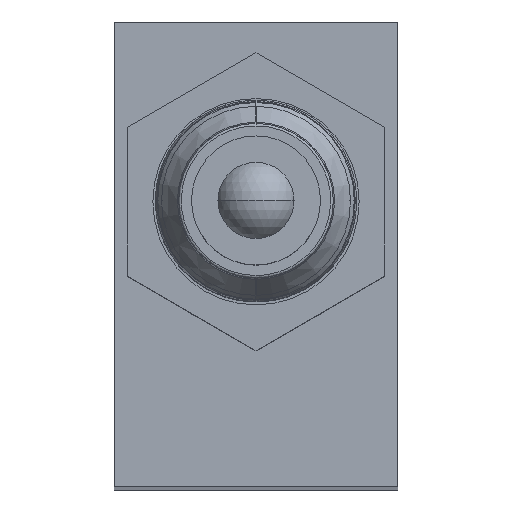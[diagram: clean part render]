
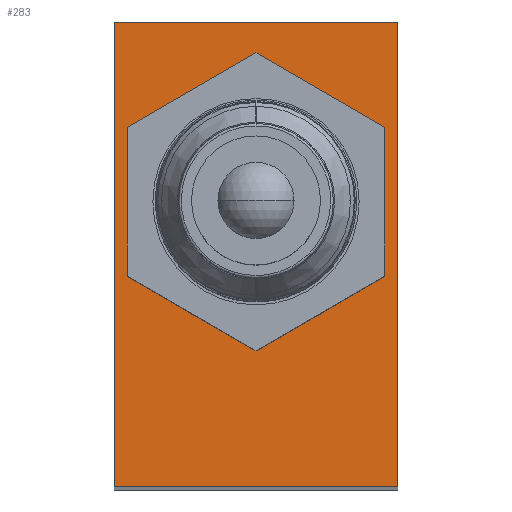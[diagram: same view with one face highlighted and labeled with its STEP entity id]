
A CAD part, top view. The second image highlights one B-rep face of the part: STEP entity #283.
In plain terms, the highlighted planar face has unit normal (0, 0, 1).
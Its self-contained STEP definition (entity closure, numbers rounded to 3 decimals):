
#283 = ADVANCED_FACE ( 'NONE', ( #1821, #1827 ), #6073, .F. ) ;
#417 = EDGE_CURVE ( 'NONE', #835, #836, #1881, .T. ) ;
#419 = EDGE_CURVE ( 'NONE', #836, #835, #1884, .T. ) ;
#426 = EDGE_CURVE ( 'NONE', #847, #846, #1895, .T. ) ;
#427 = EDGE_CURVE ( 'NONE', #848, #847, #1890, .T. ) ;
#431 = EDGE_CURVE ( 'NONE', #845, #846, #1904, .T. ) ;
#432 = EDGE_CURVE ( 'NONE', #848, #845, #1900, .T. ) ;
#639 = AXIS2_PLACEMENT_3D ( 'NONE', #2488, #2490, #2491 ) ;
#658 = AXIS2_PLACEMENT_3D ( 'NONE', #6076, #6081, #6082 ) ;
#688 = AXIS2_PLACEMENT_3D ( 'NONE', #2494, #2495, #2496 ) ;
#835 = VERTEX_POINT ( 'NONE', #2931 ) ;
#836 = VERTEX_POINT ( 'NONE', #2932 ) ;
#845 = VERTEX_POINT ( 'NONE', #2941 ) ;
#846 = VERTEX_POINT ( 'NONE', #2942 ) ;
#847 = VERTEX_POINT ( 'NONE', #2943 ) ;
#848 = VERTEX_POINT ( 'NONE', #2944 ) ;
#1821 = FACE_OUTER_BOUND ( 'NONE', #4563, .T. ) ;
#1827 = FACE_BOUND ( 'NONE', #4612, .T. ) ;
#1881 = CIRCLE ( 'NONE', #639, 5. ) ;
#1884 = CIRCLE ( 'NONE', #688, 5. ) ;
#1890 = LINE ( 'NONE', #2508, #1897 ) ;
#1895 = LINE ( 'NONE', #2511, #1896 ) ;
#1896 = VECTOR ( 'NONE', #2512, 1000. ) ;
#1897 = VECTOR ( 'NONE', #2514, 1000. ) ;
#1900 = LINE ( 'NONE', #2510, #1906 ) ;
#1904 = LINE ( 'NONE', #2521, #1905 ) ;
#1905 = VECTOR ( 'NONE', #2522, 1000. ) ;
#1906 = VECTOR ( 'NONE', #2524, 1000. ) ;
#2488 = CARTESIAN_POINT ( 'NONE',  ( 0., 0., -48.5 ) ) ;
#2490 = DIRECTION ( 'NONE',  ( 0., 0., -1. ) ) ;
#2491 = DIRECTION ( 'NONE',  ( -1., 0., 0. ) ) ;
#2494 = CARTESIAN_POINT ( 'NONE',  ( 0., 0., -48.5 ) ) ;
#2495 = DIRECTION ( 'NONE',  ( 0., 0., -1. ) ) ;
#2496 = DIRECTION ( 'NONE',  ( -1., 0., 0. ) ) ;
#2508 = CARTESIAN_POINT ( 'NONE',  ( 5.5, 7., -48.5 ) ) ;
#2510 = CARTESIAN_POINT ( 'NONE',  ( 5.5, 7., -48.5 ) ) ;
#2511 = CARTESIAN_POINT ( 'NONE',  ( 5.5, -11., -48.5 ) ) ;
#2512 = DIRECTION ( 'NONE',  ( -1., 0., 0. ) ) ;
#2514 = DIRECTION ( 'NONE',  ( 0., -1., 0. ) ) ;
#2521 = CARTESIAN_POINT ( 'NONE',  ( -5.5, 7., -48.5 ) ) ;
#2522 = DIRECTION ( 'NONE',  ( 0., -1., 0. ) ) ;
#2524 = DIRECTION ( 'NONE',  ( -1., 0., 0. ) ) ;
#2931 = CARTESIAN_POINT ( 'NONE',  ( -5., 0., -48.5 ) ) ;
#2932 = CARTESIAN_POINT ( 'NONE',  ( 5., 0., -48.5 ) ) ;
#2941 = CARTESIAN_POINT ( 'NONE',  ( -5.5, 7., -48.5 ) ) ;
#2942 = CARTESIAN_POINT ( 'NONE',  ( -5.5, -11., -48.5 ) ) ;
#2943 = CARTESIAN_POINT ( 'NONE',  ( 5.5, -11., -48.5 ) ) ;
#2944 = CARTESIAN_POINT ( 'NONE',  ( 5.5, 7., -48.5 ) ) ;
#4563 = EDGE_LOOP ( 'NONE', ( #6641, #6640, #6638, #6636 ) ) ;
#4612 = EDGE_LOOP ( 'NONE', ( #6631, #6628 ) ) ;
#6073 = PLANE ( 'NONE',  #658 ) ;
#6076 = CARTESIAN_POINT ( 'NONE',  ( 5.5, 7., -48.5 ) ) ;
#6081 = DIRECTION ( 'NONE',  ( 0., 0., -1. ) ) ;
#6082 = DIRECTION ( 'NONE',  ( -1., 0., 0. ) ) ;
#6628 = ORIENTED_EDGE ( 'NONE', *, *, #417, .T. ) ;
#6631 = ORIENTED_EDGE ( 'NONE', *, *, #419, .T. ) ;
#6636 = ORIENTED_EDGE ( 'NONE', *, *, #432, .T. ) ;
#6638 = ORIENTED_EDGE ( 'NONE', *, *, #427, .F. ) ;
#6640 = ORIENTED_EDGE ( 'NONE', *, *, #426, .F. ) ;
#6641 = ORIENTED_EDGE ( 'NONE', *, *, #431, .T. ) ;
